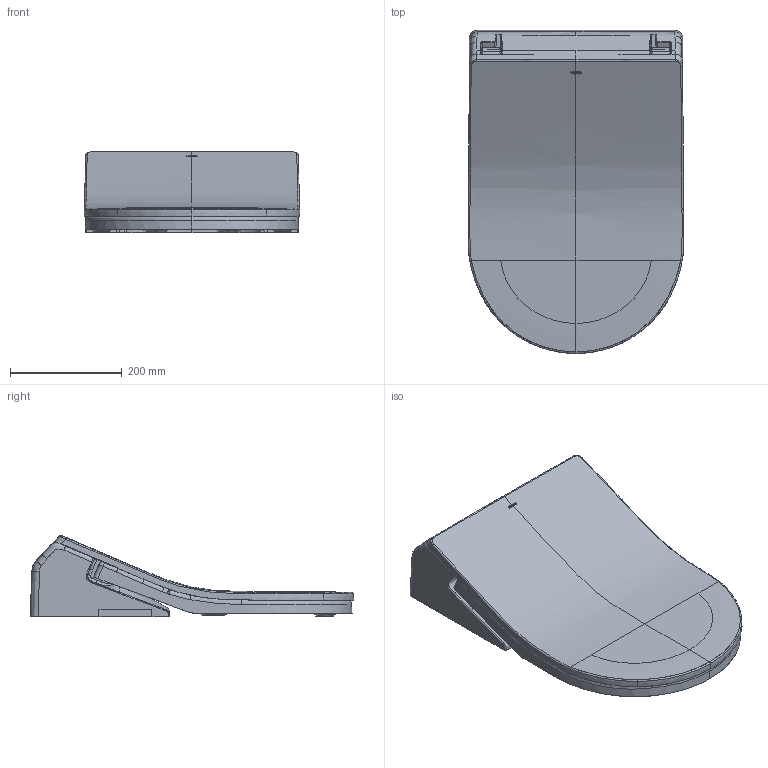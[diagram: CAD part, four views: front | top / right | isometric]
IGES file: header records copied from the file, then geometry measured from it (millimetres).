
Start section:  PTC IGES file: tcf794cg-web.igs
Global section: file name: tcf794cg-web.igs; native system: Creo Parametric by PTC Inc.; preprocessor: 2017260; author: Uporabnik; organization: Unknown; date: 20171219.080137; units: millimetre
Bounding box: 386.22 x 579.05 x 146.25 mm (x, y, z)
Surface area: 618102.5 mm2 (no closed solid volume)
Topology: 0 solids, 0 shells, 375 faces, 2024 edges, 2022 vertices
Faces by surface type: bspline 244, revolution 83, extrusion 48
